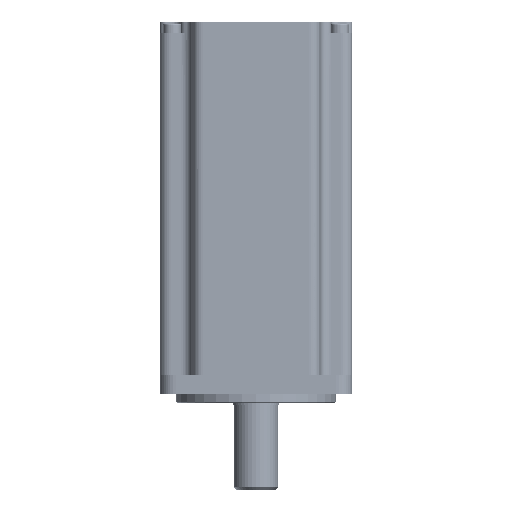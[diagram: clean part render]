
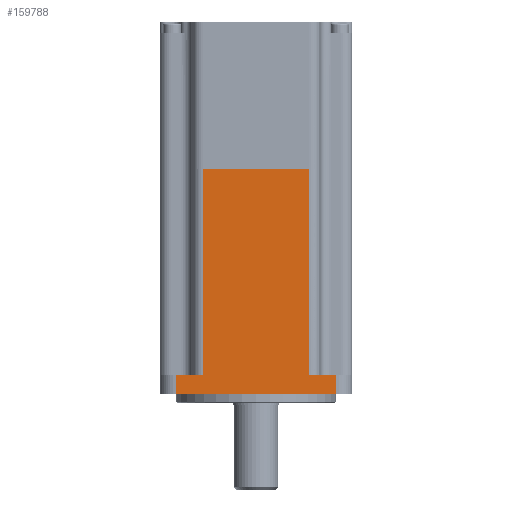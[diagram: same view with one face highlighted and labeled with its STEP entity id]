
A CAD part, front view. The second image highlights one B-rep face of the part: STEP entity #159788.
In plain terms, the highlighted planar face has unit normal (0, -1, 0).
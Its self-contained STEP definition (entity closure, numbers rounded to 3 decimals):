
#4156 = CARTESIAN_POINT ( 'NONE',  ( -25., 13.821, 213.875 ) ) ;
#8054 = VERTEX_POINT ( 'NONE', #259930 ) ;
#9141 = CARTESIAN_POINT ( 'NONE',  ( -30., 13.821, 149.875 ) ) ;
#10241 = LINE ( 'NONE', #200341, #299209 ) ;
#17733 = ORIENTED_EDGE ( 'NONE', *, *, #239056, .T. ) ;
#20107 = DIRECTION ( 'NONE',  ( 1., 0., 0. ) ) ;
#20286 = EDGE_CURVE ( 'NONE', #312537, #8054, #10241, .T. ) ;
#25217 = DIRECTION ( 'NONE',  ( -1., 0., 0. ) ) ;
#32145 = PLANE ( 'NONE',  #204330 ) ;
#42237 = EDGE_LOOP ( 'NONE', ( #59868, #264369, #199412, #166704, #153016, #219768, #128771, #17733 ) ) ;
#50990 = VECTOR ( 'NONE', #305463, 1000. ) ;
#59868 = ORIENTED_EDGE ( 'NONE', *, *, #223130, .F. ) ;
#66075 = FACE_OUTER_BOUND ( 'NONE', #42237, .T. ) ;
#67926 = DIRECTION ( 'NONE',  ( -1., 0., 0. ) ) ;
#68785 = DIRECTION ( 'NONE',  ( 0., 0., 1. ) ) ;
#69931 = CARTESIAN_POINT ( 'NONE',  ( -25., 13.821, 149.875 ) ) ;
#71443 = VERTEX_POINT ( 'NONE', #85734 ) ;
#78709 = EDGE_CURVE ( 'NONE', #254613, #288052, #96863, .T. ) ;
#85734 = CARTESIAN_POINT ( 'NONE',  ( 16.5, 13.821, 213.875 ) ) ;
#90615 = CARTESIAN_POINT ( 'NONE',  ( 16.5, 13.821, 54.243 ) ) ;
#92368 = LINE ( 'NONE', #90615, #289314 ) ;
#96863 = LINE ( 'NONE', #9141, #225915 ) ;
#105934 = LINE ( 'NONE', #319443, #296742 ) ;
#109540 = VECTOR ( 'NONE', #67926, 1000. ) ;
#121778 = LINE ( 'NONE', #153963, #109540 ) ;
#126519 = VECTOR ( 'NONE', #68785, 1000. ) ;
#127939 = CARTESIAN_POINT ( 'NONE',  ( 25., 13.821, 213.875 ) ) ;
#128771 = ORIENTED_EDGE ( 'NONE', *, *, #177218, .T. ) ;
#153016 = ORIENTED_EDGE ( 'NONE', *, *, #242429, .F. ) ;
#153050 = LINE ( 'NONE', #127939, #126519 ) ;
#153963 = CARTESIAN_POINT ( 'NONE',  ( -30., 13.821, 149.875 ) ) ;
#159788 = ADVANCED_FACE ( 'NONE', ( #66075 ), #32145, .F. ) ;
#166704 = ORIENTED_EDGE ( 'NONE', *, *, #212571, .T. ) ;
#175508 = CARTESIAN_POINT ( 'NONE',  ( -30., 13.821, 213.875 ) ) ;
#177218 = EDGE_CURVE ( 'NONE', #312537, #219750, #121778, .T. ) ;
#178018 = LINE ( 'NONE', #289226, #228947 ) ;
#183404 = CARTESIAN_POINT ( 'NONE',  ( -25., 13.821, 143.875 ) ) ;
#199412 = ORIENTED_EDGE ( 'NONE', *, *, #78709, .T. ) ;
#200341 = CARTESIAN_POINT ( 'NONE',  ( -16.5, 13.821, 54.243 ) ) ;
#204095 = EDGE_CURVE ( 'NONE', #313907, #254613, #153050, .T. ) ;
#204183 = DIRECTION ( 'NONE',  ( 0., 1., 0. ) ) ;
#204330 = AXIS2_PLACEMENT_3D ( 'NONE', #175508, #204183, #284924 ) ;
#212571 = EDGE_CURVE ( 'NONE', #288052, #71443, #92368, .T. ) ;
#219750 = VERTEX_POINT ( 'NONE', #69931 ) ;
#219768 = ORIENTED_EDGE ( 'NONE', *, *, #20286, .F. ) ;
#221863 = CARTESIAN_POINT ( 'NONE',  ( 25., 13.821, 149.875 ) ) ;
#223130 = EDGE_CURVE ( 'NONE', #313907, #281303, #105934, .T. ) ;
#225915 = VECTOR ( 'NONE', #344398, 1000. ) ;
#228947 = VECTOR ( 'NONE', #20107, 1000. ) ;
#239056 = EDGE_CURVE ( 'NONE', #219750, #281303, #276754, .T. ) ;
#242429 = EDGE_CURVE ( 'NONE', #8054, #71443, #178018, .T. ) ;
#254613 = VERTEX_POINT ( 'NONE', #221863 ) ;
#255026 = CARTESIAN_POINT ( 'NONE',  ( 25., 13.821, 143.875 ) ) ;
#259930 = CARTESIAN_POINT ( 'NONE',  ( -16.5, 13.821, 213.875 ) ) ;
#264369 = ORIENTED_EDGE ( 'NONE', *, *, #204095, .T. ) ;
#276754 = LINE ( 'NONE', #4156, #50990 ) ;
#281303 = VERTEX_POINT ( 'NONE', #183404 ) ;
#284924 = DIRECTION ( 'NONE',  ( 0., 0., 1. ) ) ;
#287819 = DIRECTION ( 'NONE',  ( 0., 0., 1. ) ) ;
#288052 = VERTEX_POINT ( 'NONE', #303798 ) ;
#289226 = CARTESIAN_POINT ( 'NONE',  ( -30., 13.821, 213.875 ) ) ;
#289314 = VECTOR ( 'NONE', #287819, 1000. ) ;
#296742 = VECTOR ( 'NONE', #25217, 1000. ) ;
#299209 = VECTOR ( 'NONE', #336675, 1000. ) ;
#303798 = CARTESIAN_POINT ( 'NONE',  ( 16.5, 13.821, 149.875 ) ) ;
#305463 = DIRECTION ( 'NONE',  ( 0., 0., -1. ) ) ;
#312537 = VERTEX_POINT ( 'NONE', #318021 ) ;
#313907 = VERTEX_POINT ( 'NONE', #255026 ) ;
#318021 = CARTESIAN_POINT ( 'NONE',  ( -16.5, 13.821, 149.875 ) ) ;
#319443 = CARTESIAN_POINT ( 'NONE',  ( -30., 13.821, 143.875 ) ) ;
#336675 = DIRECTION ( 'NONE',  ( 0., 0., 1. ) ) ;
#344398 = DIRECTION ( 'NONE',  ( -1., 0., 0. ) ) ;
